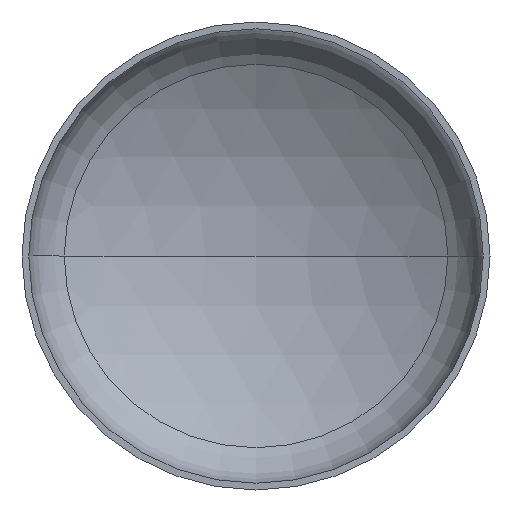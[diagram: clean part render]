
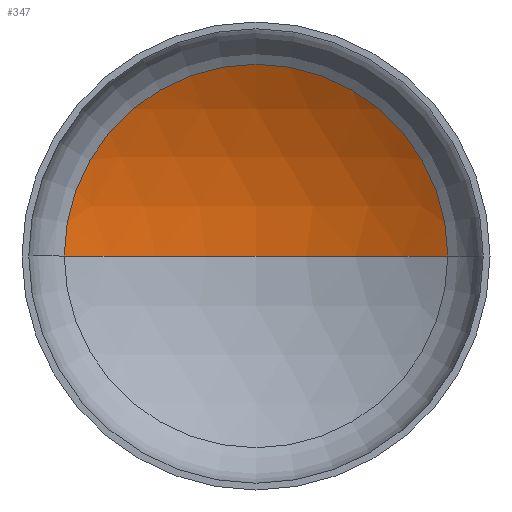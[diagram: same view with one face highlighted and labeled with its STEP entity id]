
A CAD part, front view. The second image highlights one B-rep face of the part: STEP entity #347.
In plain terms, the highlighted spherical face has radius 720 mm.
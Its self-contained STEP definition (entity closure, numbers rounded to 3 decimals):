
#11 = ORIENTED_EDGE ( 'NONE', *, *, #108, .F. ) ;
#17 = CARTESIAN_POINT ( 'NONE',  ( 0., 160.252, 0. ) ) ;
#19 = EDGE_LOOP ( 'NONE', ( #11, #119, #54 ) ) ;
#23 = AXIS2_PLACEMENT_3D ( 'NONE', #205, #217, #215 ) ;
#27 = AXIS2_PLACEMENT_3D ( 'NONE', #335, #194, #361 ) ;
#32 = AXIS2_PLACEMENT_3D ( 'NONE', #17, #263, #187 ) ;
#46 = VERTEX_POINT ( 'NONE', #355 ) ;
#54 = ORIENTED_EDGE ( 'NONE', *, *, #105, .T. ) ;
#78 = VERTEX_POINT ( 'NONE', #237 ) ;
#101 = VERTEX_POINT ( 'NONE', #235 ) ;
#105 = EDGE_CURVE ( 'NONE', #46, #101, #298, .T. ) ;
#107 = EDGE_CURVE ( 'NONE', #78, #46, #370, .T. ) ;
#108 = EDGE_CURVE ( 'NONE', #78, #101, #245, .T. ) ;
#119 = ORIENTED_EDGE ( 'NONE', *, *, #107, .T. ) ;
#165 = DIRECTION ( 'NONE',  ( -1., 0., 0. ) ) ;
#166 = CARTESIAN_POINT ( 'NONE',  ( 0., -458.188, 0. ) ) ;
#187 = DIRECTION ( 'NONE',  ( 1., 0., 0. ) ) ;
#194 = DIRECTION ( 'NONE',  ( 0., 0., -1. ) ) ;
#205 = CARTESIAN_POINT ( 'NONE',  ( 0., -458.188, 0. ) ) ;
#215 = DIRECTION ( 'NONE',  ( 1., 0., 0. ) ) ;
#217 = DIRECTION ( 'NONE',  ( 0., 0., 1. ) ) ;
#235 = CARTESIAN_POINT ( 'NONE',  ( -368.69, 160.252, 0. ) ) ;
#237 = CARTESIAN_POINT ( 'NONE',  ( 0., 261.812, 0. ) ) ;
#245 = CIRCLE ( 'NONE', #23, 720. ) ;
#263 = DIRECTION ( 'NONE',  ( 0., -1., 0. ) ) ;
#268 = FACE_OUTER_BOUND ( 'NONE', #19, .T. ) ;
#279 = AXIS2_PLACEMENT_3D ( 'NONE', #166, #334, #165 ) ;
#298 = CIRCLE ( 'NONE', #32, 368.69 ) ;
#334 = DIRECTION ( 'NONE',  ( 0., 0., -1. ) ) ;
#335 = CARTESIAN_POINT ( 'NONE',  ( 0., -458.188, 0. ) ) ;
#347 = ADVANCED_FACE ( 'NONE', ( #268 ), #389, .F. ) ;
#355 = CARTESIAN_POINT ( 'NONE',  ( 368.69, 160.252, 0. ) ) ;
#361 = DIRECTION ( 'NONE',  ( -1., 0., 0. ) ) ;
#370 = CIRCLE ( 'NONE', #27, 720. ) ;
#389 = SPHERICAL_SURFACE ( 'NONE', #279, 720. ) ;
